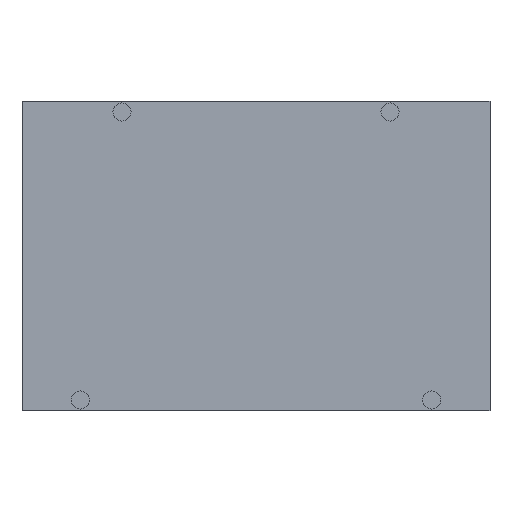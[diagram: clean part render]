
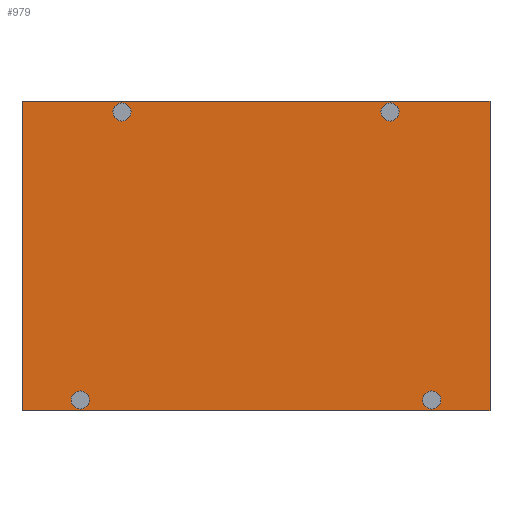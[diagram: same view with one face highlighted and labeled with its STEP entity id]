
A CAD part, front view. The second image highlights one B-rep face of the part: STEP entity #979.
In plain terms, the highlighted planar face has unit normal (0, -1, 0).
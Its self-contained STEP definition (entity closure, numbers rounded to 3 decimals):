
#5 = FACE_OUTER_BOUND ( 'NONE', #351, .T. ) ;
#9 = DIRECTION ( 'NONE',  ( -1., 0., 0. ) ) ;
#30 = VERTEX_POINT ( 'NONE', #108 ) ;
#31 = EDGE_CURVE ( 'NONE', #244, #940, #287, .T. ) ;
#34 = CIRCLE ( 'NONE', #296, 0.5 ) ;
#36 = CARTESIAN_POINT ( 'NONE',  ( -7.875, -14.875, 16.45 ) ) ;
#38 = CIRCLE ( 'NONE', #200, 0.5 ) ;
#69 = AXIS2_PLACEMENT_3D ( 'NONE', #155, #341, #1075 ) ;
#96 = LINE ( 'NONE', #252, #171 ) ;
#98 = EDGE_LOOP ( 'NONE', ( #1006, #778 ) ) ;
#101 = AXIS2_PLACEMENT_3D ( 'NONE', #893, #346, #596 ) ;
#105 = FACE_BOUND ( 'NONE', #1088, .T. ) ;
#108 = CARTESIAN_POINT ( 'NONE',  ( -12.875, -14.875, 17.05 ) ) ;
#138 = FACE_BOUND ( 'NONE', #98, .T. ) ;
#151 = AXIS2_PLACEMENT_3D ( 'NONE', #742, #847, #9 ) ;
#153 = VERTEX_POINT ( 'NONE', #220 ) ;
#155 = CARTESIAN_POINT ( 'NONE',  ( 7.375, -14.875, 16.45 ) ) ;
#156 = CARTESIAN_POINT ( 'NONE',  ( 7.875, -14.875, 16.45 ) ) ;
#166 = LINE ( 'NONE', #863, #436 ) ;
#171 = VECTOR ( 'NONE', #1092, 1000. ) ;
#175 = EDGE_CURVE ( 'NONE', #153, #783, #775, .T. ) ;
#185 = VERTEX_POINT ( 'NONE', #938 ) ;
#186 = VERTEX_POINT ( 'NONE', #751 ) ;
#200 = AXIS2_PLACEMENT_3D ( 'NONE', #872, #404, #1065 ) ;
#203 = EDGE_CURVE ( 'NONE', #974, #186, #34, .T. ) ;
#212 = CARTESIAN_POINT ( 'NONE',  ( 9.675, -14.875, 0.6 ) ) ;
#220 = CARTESIAN_POINT ( 'NONE',  ( -6.875, -14.875, 16.45 ) ) ;
#235 = AXIS2_PLACEMENT_3D ( 'NONE', #931, #652, #1038 ) ;
#242 = EDGE_CURVE ( 'NONE', #185, #1094, #615, .T. ) ;
#244 = VERTEX_POINT ( 'NONE', #1130 ) ;
#251 = VERTEX_POINT ( 'NONE', #1044 ) ;
#252 = CARTESIAN_POINT ( 'NONE',  ( -12.875, -14.875, 17.05 ) ) ;
#255 = CIRCLE ( 'NONE', #970, 0.5 ) ;
#261 = EDGE_LOOP ( 'NONE', ( #955, #1066 ) ) ;
#287 = CIRCLE ( 'NONE', #516, 0.5 ) ;
#288 = DIRECTION ( 'NONE',  ( 0., 0., -1. ) ) ;
#296 = AXIS2_PLACEMENT_3D ( 'NONE', #377, #1125, #662 ) ;
#308 = DIRECTION ( 'NONE',  ( -1., 0., 0. ) ) ;
#310 = VERTEX_POINT ( 'NONE', #480 ) ;
#341 = DIRECTION ( 'NONE',  ( 0., -1., 0. ) ) ;
#345 = LINE ( 'NONE', #654, #528 ) ;
#346 = DIRECTION ( 'NONE',  ( 0., 1., 0. ) ) ;
#351 = EDGE_LOOP ( 'NONE', ( #980, #1107, #695, #481 ) ) ;
#360 = EDGE_CURVE ( 'NONE', #940, #244, #513, .T. ) ;
#361 = EDGE_CURVE ( 'NONE', #30, #251, #345, .T. ) ;
#366 = VECTOR ( 'NONE', #477, 1000. ) ;
#377 = CARTESIAN_POINT ( 'NONE',  ( 7.375, -14.875, 16.45 ) ) ;
#404 = DIRECTION ( 'NONE',  ( 0., -1., 0. ) ) ;
#419 = EDGE_CURVE ( 'NONE', #251, #1094, #166, .T. ) ;
#436 = VECTOR ( 'NONE', #664, 1000. ) ;
#438 = CIRCLE ( 'NONE', #905, 0.5 ) ;
#473 = CARTESIAN_POINT ( 'NONE',  ( 12.875, -14.875, 17.05 ) ) ;
#477 = DIRECTION ( 'NONE',  ( 0., 0., -1. ) ) ;
#480 = CARTESIAN_POINT ( 'NONE',  ( -10.175, -14.875, 0.6 ) ) ;
#481 = ORIENTED_EDGE ( 'NONE', *, *, #361, .T. ) ;
#501 = DIRECTION ( 'NONE',  ( -1., 0., 0. ) ) ;
#513 = CIRCLE ( 'NONE', #151, 0.5 ) ;
#516 = AXIS2_PLACEMENT_3D ( 'NONE', #212, #944, #308 ) ;
#528 = VECTOR ( 'NONE', #288, 1000. ) ;
#533 = ORIENTED_EDGE ( 'NONE', *, *, #175, .F. ) ;
#562 = FACE_BOUND ( 'NONE', #667, .T. ) ;
#576 = DIRECTION ( 'NONE',  ( 0., -1., 0. ) ) ;
#596 = DIRECTION ( 'NONE',  ( -1., 0., 0. ) ) ;
#608 = EDGE_CURVE ( 'NONE', #186, #974, #1109, .T. ) ;
#615 = LINE ( 'NONE', #473, #366 ) ;
#652 = DIRECTION ( 'NONE',  ( 0., -1., 0. ) ) ;
#654 = CARTESIAN_POINT ( 'NONE',  ( -12.875, -14.875, 17.05 ) ) ;
#662 = DIRECTION ( 'NONE',  ( -1., 0., 0. ) ) ;
#664 = DIRECTION ( 'NONE',  ( 1., 0., 0. ) ) ;
#667 = EDGE_LOOP ( 'NONE', ( #832, #533 ) ) ;
#688 = CARTESIAN_POINT ( 'NONE',  ( -9.675, -14.875, 0.6 ) ) ;
#695 = ORIENTED_EDGE ( 'NONE', *, *, #1073, .F. ) ;
#703 = EDGE_CURVE ( 'NONE', #783, #153, #438, .T. ) ;
#742 = CARTESIAN_POINT ( 'NONE',  ( 9.675, -14.875, 0.6 ) ) ;
#744 = ORIENTED_EDGE ( 'NONE', *, *, #203, .F. ) ;
#751 = CARTESIAN_POINT ( 'NONE',  ( 6.875, -14.875, 16.45 ) ) ;
#775 = CIRCLE ( 'NONE', #235, 0.5 ) ;
#778 = ORIENTED_EDGE ( 'NONE', *, *, #31, .F. ) ;
#783 = VERTEX_POINT ( 'NONE', #36 ) ;
#798 = PLANE ( 'NONE',  #101 ) ;
#832 = ORIENTED_EDGE ( 'NONE', *, *, #703, .F. ) ;
#836 = ORIENTED_EDGE ( 'NONE', *, *, #608, .F. ) ;
#847 = DIRECTION ( 'NONE',  ( 0., -1., 0. ) ) ;
#854 = EDGE_CURVE ( 'NONE', #895, #310, #255, .T. ) ;
#863 = CARTESIAN_POINT ( 'NONE',  ( -12.875, -14.875, 0. ) ) ;
#872 = CARTESIAN_POINT ( 'NONE',  ( -9.675, -14.875, 0.6 ) ) ;
#893 = CARTESIAN_POINT ( 'NONE',  ( -12.875, -14.875, 17.05 ) ) ;
#895 = VERTEX_POINT ( 'NONE', #1176 ) ;
#905 = AXIS2_PLACEMENT_3D ( 'NONE', #1134, #576, #1045 ) ;
#931 = CARTESIAN_POINT ( 'NONE',  ( -7.375, -14.875, 16.45 ) ) ;
#938 = CARTESIAN_POINT ( 'NONE',  ( 12.875, -14.875, 17.05 ) ) ;
#940 = VERTEX_POINT ( 'NONE', #1071 ) ;
#944 = DIRECTION ( 'NONE',  ( 0., -1., 0. ) ) ;
#955 = ORIENTED_EDGE ( 'NONE', *, *, #1179, .F. ) ;
#970 = AXIS2_PLACEMENT_3D ( 'NONE', #688, #1062, #501 ) ;
#974 = VERTEX_POINT ( 'NONE', #156 ) ;
#979 = ADVANCED_FACE ( 'NONE', ( #1096, #138, #105, #562, #5 ), #798, .F. ) ;
#980 = ORIENTED_EDGE ( 'NONE', *, *, #419, .T. ) ;
#988 = CARTESIAN_POINT ( 'NONE',  ( 12.875, -14.875, 0. ) ) ;
#1006 = ORIENTED_EDGE ( 'NONE', *, *, #360, .F. ) ;
#1038 = DIRECTION ( 'NONE',  ( -1., 0., 0. ) ) ;
#1044 = CARTESIAN_POINT ( 'NONE',  ( -12.875, -14.875, 0. ) ) ;
#1045 = DIRECTION ( 'NONE',  ( -1., 0., 0. ) ) ;
#1062 = DIRECTION ( 'NONE',  ( 0., -1., 0. ) ) ;
#1065 = DIRECTION ( 'NONE',  ( -1., 0., 0. ) ) ;
#1066 = ORIENTED_EDGE ( 'NONE', *, *, #854, .F. ) ;
#1071 = CARTESIAN_POINT ( 'NONE',  ( 9.175, -14.875, 0.6 ) ) ;
#1073 = EDGE_CURVE ( 'NONE', #30, #185, #96, .T. ) ;
#1075 = DIRECTION ( 'NONE',  ( -1., 0., 0. ) ) ;
#1088 = EDGE_LOOP ( 'NONE', ( #836, #744 ) ) ;
#1092 = DIRECTION ( 'NONE',  ( 1., 0., 0. ) ) ;
#1094 = VERTEX_POINT ( 'NONE', #988 ) ;
#1096 = FACE_BOUND ( 'NONE', #261, .T. ) ;
#1107 = ORIENTED_EDGE ( 'NONE', *, *, #242, .F. ) ;
#1109 = CIRCLE ( 'NONE', #69, 0.5 ) ;
#1125 = DIRECTION ( 'NONE',  ( 0., -1., 0. ) ) ;
#1130 = CARTESIAN_POINT ( 'NONE',  ( 10.175, -14.875, 0.6 ) ) ;
#1134 = CARTESIAN_POINT ( 'NONE',  ( -7.375, -14.875, 16.45 ) ) ;
#1176 = CARTESIAN_POINT ( 'NONE',  ( -9.175, -14.875, 0.6 ) ) ;
#1179 = EDGE_CURVE ( 'NONE', #310, #895, #38, .T. ) ;
